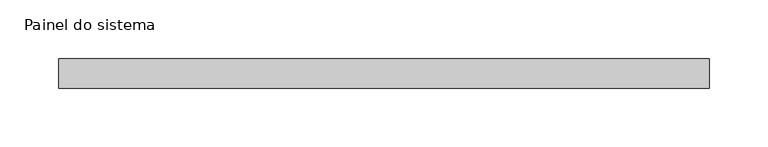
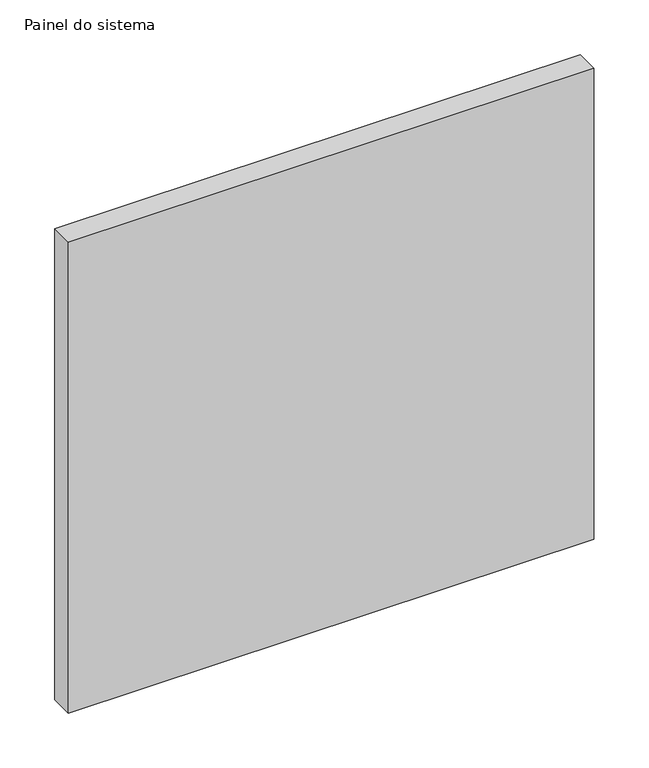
"""IFC4 building model written with IfcOpenShell, lengths in millimetres: plate geometry, Painel do sistema : Envidraçado."""

from ifc_helpers import new_model, si_unit, origin, origin_with_axes, place, context, project, spatial, polyline, outline, extrude, source, transform, mapped, element, save


def painel_do_sistema_93f4221b(model_context):
    return source(origin(), model_context, "Body", "SweptSolid", [
        extrude(outline(polyline([(277.0833333, 24.5), (-277.0833333, 24.5), (-277.0833333, 49.5), (277.0833333, 49.5), (277.0833333, 24.5)])), origin_with_axes(), (0.0, 0.0, 1.0), 525.0),
    ])


if __name__ == "__main__":
    model = new_model("IFC4")
    model_context = context("Model", 3, world=origin())
    ifc_project = project(units=[si_unit("LENGTHUNIT", "METRE", prefix="MILLI")], contexts=[model_context])
    site = spatial("IfcSite", under=ifc_project)
    building = spatial("IfcBuilding", under=site)
    placement = place(None, origin())
    painel_do_sistema_shape = painel_do_sistema_93f4221b(model_context)
    element("IfcPlate", 1, ObjectType="Painel do sistema : Envidraçado", at=placement, inside=building, context=model_context, shape_type="MappedRepresentation", body=[
        mapped(painel_do_sistema_shape, transform((0.0, 0.0, 0.0), x_axis=(1.0, 0.0, 0.0), y_axis=(0.0, 1.0, 0.0), z_axis=(0.0, 0.0, 1.0))),
    ])
    save(model, "model.ifc")
